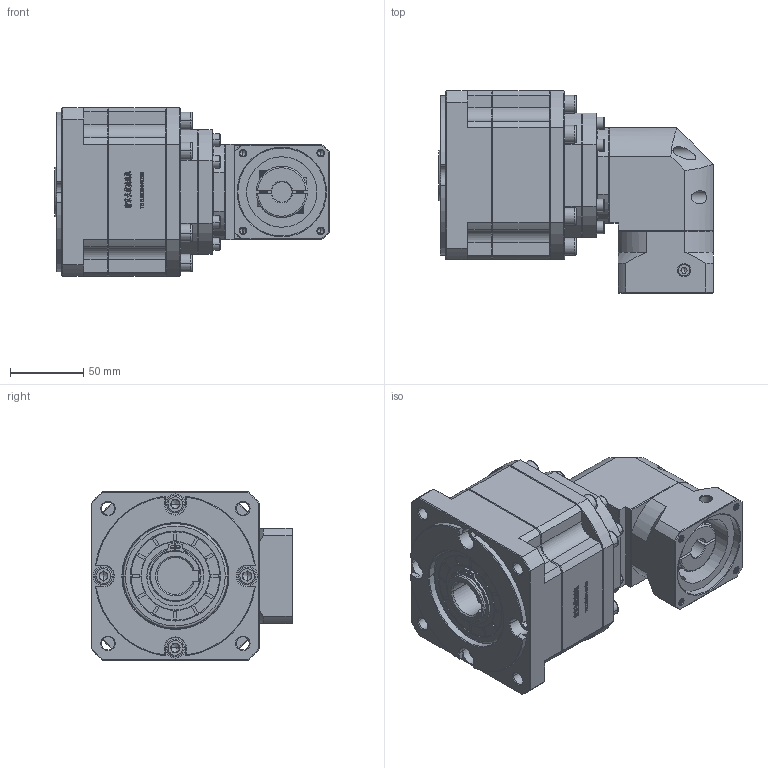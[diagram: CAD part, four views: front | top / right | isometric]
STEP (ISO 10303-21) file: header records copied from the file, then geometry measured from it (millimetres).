
FILE_DESCRIPTION (( 'STEP AP214' ), '1' );
FILE_NAME ('ZB115A-K25-L3-14-60-75-M5.step', '2023-03-03T08:06:01', ( '' ), ( 'Microsoft' ), 'SwSTEP 2.0', 'SolidWorks 2016', '' );
FILE_SCHEMA (( 'AUTOMOTIVE_DESIGN' ));
Length unit declared in the file: millimetre
Products named in the file (1): ZB115A-K25-L3-14-60-75-M5
Bounding box: 187.5 x 137.7 x 115 mm (x, y, z)
Volume: 1522053.1 mm3; surface area: 144205.9 mm2
Topology: 6 solids, 6 shells, 3183 faces, 8485 edges, 5464 vertices
Faces by surface type: plane 1712, bspline 616, cylinder 452, cone 383, torus 20
Entity records: 165116 total; most frequent: CARTESIAN_POINT 55351, ORIENTED_EDGE 16850, DIRECTION 13190, EDGE_CURVE 8425, LINE 5628, VECTOR 5628, VERTEX_POINT 5464, AXIS2_PLACEMENT_3D 3781
